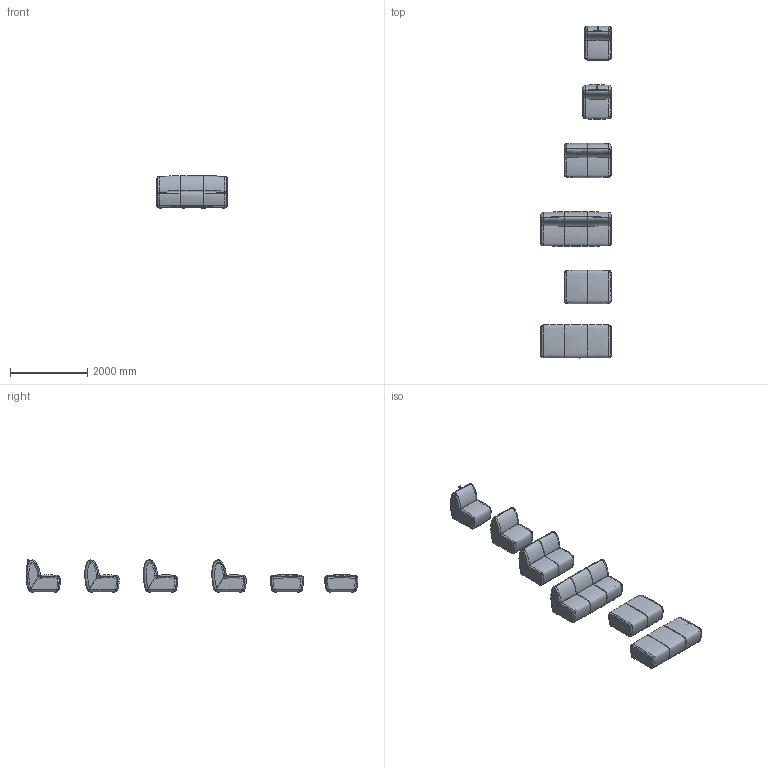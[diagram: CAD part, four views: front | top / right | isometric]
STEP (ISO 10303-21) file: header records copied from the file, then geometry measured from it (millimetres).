
FILE_DESCRIPTION(/* description */ (''),/* implementation_level */ '2;1');
FILE_NAME(/* name */ 'Kova_Seating.step',/* time_stamp */ '2025-12-08T08:38:14-08:00',/* author */ (''),/* organization */ (''),/* preprocessor_version */ 'ST-DEVELOPER v20.1',/* originating_system */ 'Autodesk Translation Framework v14.21.0.0',/* authorisation */ '');
FILE_SCHEMA (('AUTOMOTIVE_DESIGN { 1 0 10303 214 3 1 1 }'));
Products named in the file (1): New Soft Seating CNC V2
Bounding box: 1828.8 x 8621.65 x 853.54 mm (x, y, z)
Volume: 3163986824.8 mm3; surface area: 53557609.5 mm2
Topology: 63 solids, 63 shells, 1602 faces, 3714 edges, 2142 vertices
Faces by surface type: bspline 1110, plane 162, torus 110, cylinder 100, sphere 96, cone 24
Full cylindrical faces by diameter (mm): 11.112 x2, 31.75 x24, 50.8 x24
Entity records: 134486 total; most frequent: CARTESIAN_POINT 105237, ORIENTED_EDGE 7232, DIRECTION 3940, EDGE_CURVE 3616, VERTEX_POINT 2142, B_SPLINE_CURVE_WITH_KNOTS 1996, AXIS2_PLACEMENT_3D 1827, EDGE_LOOP 1604
